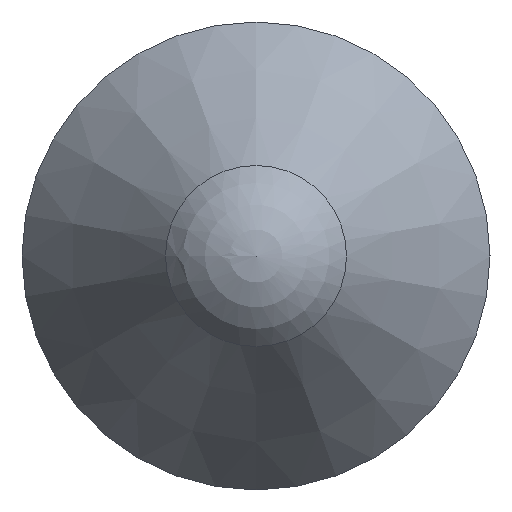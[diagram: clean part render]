
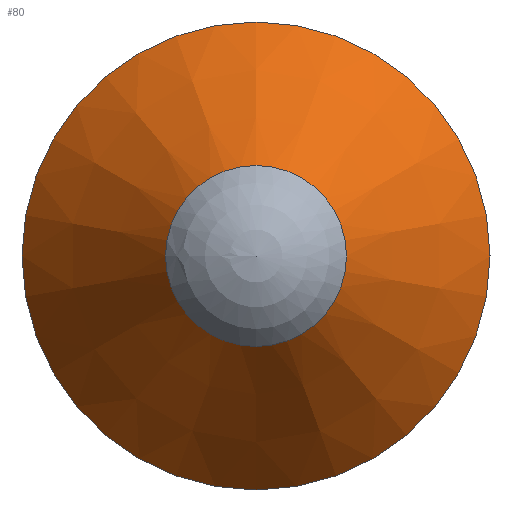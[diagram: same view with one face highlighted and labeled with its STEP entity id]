
A CAD part, left-side view. The second image highlights one B-rep face of the part: STEP entity #80.
In plain terms, the highlighted conical face has half-angle 35 degrees and reference radius 0.58 mm.
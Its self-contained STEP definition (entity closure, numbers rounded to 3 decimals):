
#80 = ADVANCED_FACE( '', ( #99, #100 ), #101, .T. );
#99 = FACE_OUTER_BOUND( '', #122, .T. );
#100 = FACE_BOUND( '', #123, .T. );
#101 = CONICAL_SURFACE( '', #124, 0.58, 0.611 );
#122 = EDGE_LOOP( '', ( #155 ) );
#123 = EDGE_LOOP( '', ( #156 ) );
#124 = AXIS2_PLACEMENT_3D( '', #157, #158, #159 );
#155 = ORIENTED_EDGE( '', *, *, #174, .F. );
#156 = ORIENTED_EDGE( '', *, *, #175, .T. );
#157 = CARTESIAN_POINT( '', ( 0.309, 0., 0. ) );
#158 = DIRECTION( '', ( 1., 0., 0. ) );
#159 = DIRECTION( '', ( 0., 0., -1. ) );
#174 = EDGE_CURVE( '', #187, #187, #188, .T. );
#175 = EDGE_CURVE( '', #189, #189, #190, .T. );
#187 = VERTEX_POINT( '', #201 );
#188 = CIRCLE( '', #202, 1.5 );
#189 = VERTEX_POINT( '', #203 );
#190 = CIRCLE( '', #204, 0.58 );
#201 = CARTESIAN_POINT( '', ( 1.622, 0., -1.5 ) );
#202 = AXIS2_PLACEMENT_3D( '', #220, #221, #222 );
#203 = CARTESIAN_POINT( '', ( 0.309, 0., -0.58 ) );
#204 = AXIS2_PLACEMENT_3D( '', #223, #224, #225 );
#220 = CARTESIAN_POINT( '', ( 1.622, 0., 0. ) );
#221 = DIRECTION( '', ( 1., 0., 0. ) );
#222 = DIRECTION( '', ( 0., 0., -1. ) );
#223 = CARTESIAN_POINT( '', ( 0.309, 0., 0. ) );
#224 = DIRECTION( '', ( 1., 0., 0. ) );
#225 = DIRECTION( '', ( 0., 0., -1. ) );
